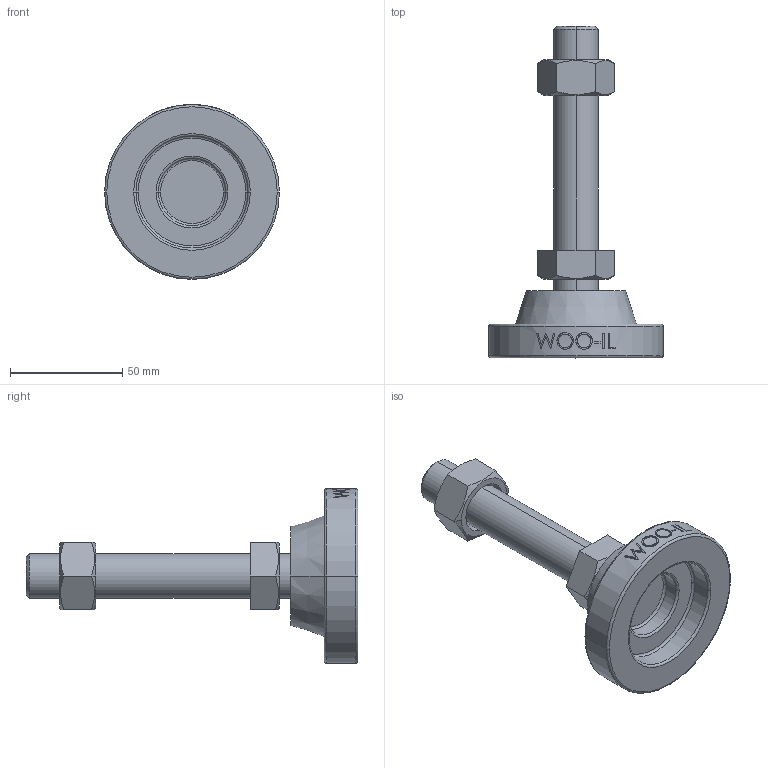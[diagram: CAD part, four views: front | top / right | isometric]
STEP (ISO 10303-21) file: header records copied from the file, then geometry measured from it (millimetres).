
FILE_DESCRIPTION (( 'STEP AP214' ), '1' );
FILE_NAME ('MFU78-M20-100.step', '2021-01-21T06:14:18', ( '' ), ( '' ), 'SwSTEP 2.0', 'SolidWorks 2019', '' );
FILE_SCHEMA (( 'AUTOMOTIVE_DESIGN' ));
Length unit declared in the file: millimetre
Products named in the file (2): MFU78-M20-100
Bounding box: 78 x 148 x 78 mm (x, y, z)
Volume: 124790.2 mm3; surface area: 28941.6 mm2
Topology: 2 solids, 2 shells, 111 faces, 255 edges, 162 vertices
Faces by surface type: plane 49, cylinder 20, bspline 16, cone 14, torus 12
Entity records: 4675 total; most frequent: CARTESIAN_POINT 2214, ORIENTED_EDGE 510, DIRECTION 471, EDGE_CURVE 255, AXIS2_PLACEMENT_3D 185, VERTEX_POINT 162, EDGE_LOOP 127, FACE_OUTER_BOUND 111
